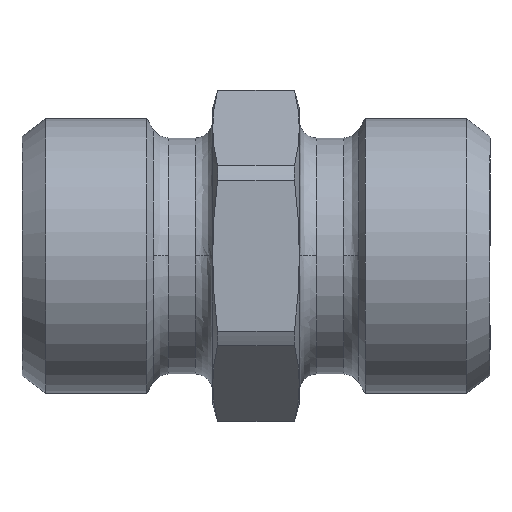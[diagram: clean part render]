
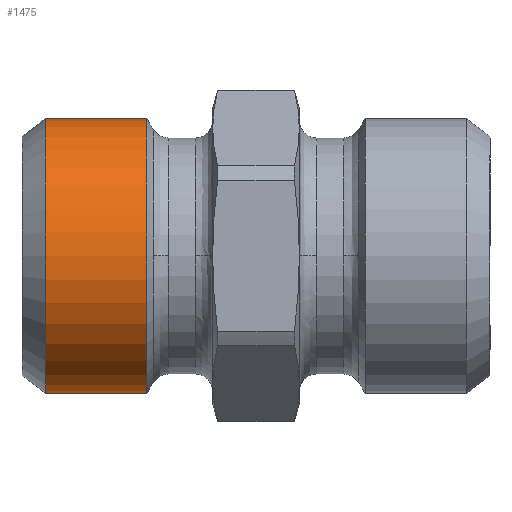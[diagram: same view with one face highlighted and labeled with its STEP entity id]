
A CAD part, top view. The second image highlights one B-rep face of the part: STEP entity #1475.
In plain terms, the highlighted cylindrical face has radius 7.925 mm (diameter 15.85 mm), a partial arc.
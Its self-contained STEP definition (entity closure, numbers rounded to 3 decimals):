
#859=CARTESIAN_POINT('',(0.,-7.925,12.14));
#860=VERTEX_POINT('',#859);
#861=CARTESIAN_POINT('',(0.,-7.925,6.3));
#862=VERTEX_POINT('',#861);
#863=CARTESIAN_POINT('',(0.,-7.925,12.14));
#864=DIRECTION('',(0.0,0.0,-1.0));
#865=VECTOR('',#864,5.84);
#866=LINE('',#863,#865);
#867=EDGE_CURVE('',#860,#862,#866,.T.);
#869=CARTESIAN_POINT('',(0.,7.925,12.14));
#870=VERTEX_POINT('',#869);
#878=CARTESIAN_POINT('',(0.,7.925,6.3));
#879=VERTEX_POINT('',#878);
#880=CARTESIAN_POINT('',(0.,7.925,6.3));
#881=DIRECTION('',(0.0,0.0,1.0));
#882=VECTOR('',#881,5.84);
#883=LINE('',#880,#882);
#884=EDGE_CURVE('',#879,#870,#883,.T.);
#1351=CARTESIAN_POINT('',(0.,0.,6.3));
#1352=DIRECTION('',(0.0,0.0,-1.0));
#1353=DIRECTION('',(0.0,-1.0,0.0));
#1354=AXIS2_PLACEMENT_3D('',#1351,#1352,#1353);
#1355=CIRCLE('',#1354,7.925);
#1356=EDGE_CURVE('',#879,#862,#1355,.T.);
#1452=CARTESIAN_POINT('',(0.,0.,12.14));
#1453=DIRECTION('',(0.0,0.0,-1.0));
#1454=DIRECTION('',(0.0,-1.0,0.0));
#1455=AXIS2_PLACEMENT_3D('',#1452,#1453,#1454);
#1456=CIRCLE('',#1455,7.925);
#1457=EDGE_CURVE('',#870,#860,#1456,.T.);
#1464=CARTESIAN_POINT('',(0.,0.,9.22));
#1465=DIRECTION('',(0.,0.,-1.0));
#1466=DIRECTION('',(0.0,-1.0,0.0));
#1467=AXIS2_PLACEMENT_3D('',#1464,#1465,#1466);
#1468=CYLINDRICAL_SURFACE('',#1467,7.925);
#1469=ORIENTED_EDGE('',*,*,#867,.T.);
#1470=ORIENTED_EDGE('',*,*,#1356,.F.);
#1471=ORIENTED_EDGE('',*,*,#884,.T.);
#1472=ORIENTED_EDGE('',*,*,#1457,.T.);
#1473=EDGE_LOOP('',(#1469,#1470,#1471,#1472));
#1474=FACE_OUTER_BOUND('',#1473,.T.);
#1475=ADVANCED_FACE('',(#1474),#1468,.T.);
